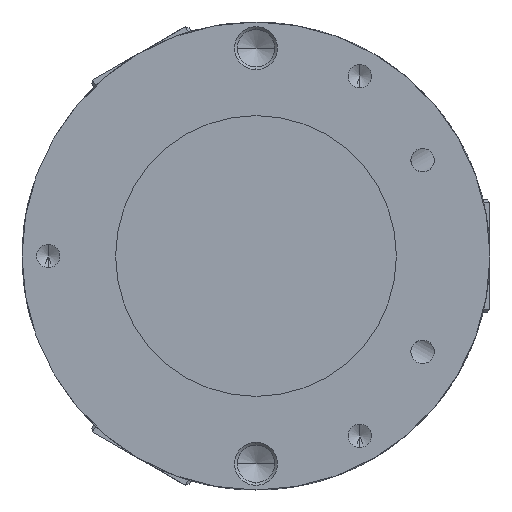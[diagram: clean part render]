
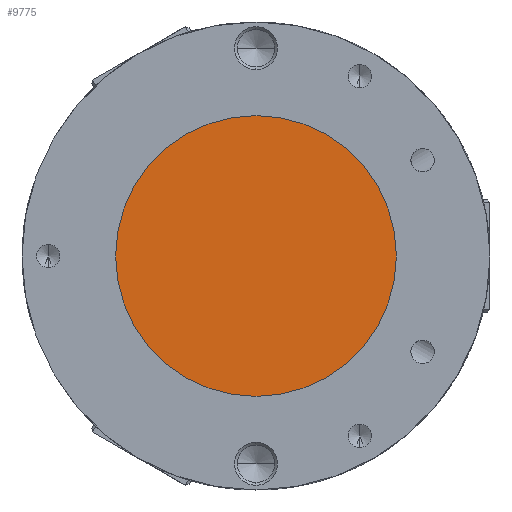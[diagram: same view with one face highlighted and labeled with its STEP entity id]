
A CAD part, front view. The second image highlights one B-rep face of the part: STEP entity #9775.
In plain terms, the highlighted planar face has unit normal (0, -1, 0).
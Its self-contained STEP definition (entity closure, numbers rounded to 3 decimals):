
#1301 = ORIENTED_EDGE ( 'NONE', *, *, #1333, .T. ) ;
#1333 = EDGE_CURVE ( 'NONE', #40136, #53348, #26503, .T. ) ;
#3350 = DIRECTION ( 'NONE',  ( 0., -1., 0. ) ) ;
#6019 = EDGE_CURVE ( 'NONE', #53348, #40136, #22808, .T. ) ;
#8005 = CARTESIAN_POINT ( 'NONE',  ( 0., 0.5, 0. ) ) ;
#9775 = ADVANCED_FACE ( 'NONE', ( #59160 ), #53556, .T. ) ;
#13673 = DIRECTION ( 'NONE',  ( 0., 0., -1. ) ) ;
#22808 = CIRCLE ( 'NONE', #46209, 15. ) ;
#25284 = DIRECTION ( 'NONE',  ( 0., -1., 0. ) ) ;
#26503 = CIRCLE ( 'NONE', #37507, 15. ) ;
#37383 = CARTESIAN_POINT ( 'NONE',  ( 0., 0.5, 0. ) ) ;
#37507 = AXIS2_PLACEMENT_3D ( 'NONE', #8005, #47693, #13673 ) ;
#40136 = VERTEX_POINT ( 'NONE', #62204 ) ;
#43045 = DIRECTION ( 'NONE',  ( 0., 0., -1. ) ) ;
#46209 = AXIS2_PLACEMENT_3D ( 'NONE', #37383, #3350, #43045 ) ;
#47693 = DIRECTION ( 'NONE',  ( 0., -1., 0. ) ) ;
#48811 = EDGE_LOOP ( 'NONE', ( #72108, #1301 ) ) ;
#51978 = AXIS2_PLACEMENT_3D ( 'NONE', #64576, #25284, #65038 ) ;
#53348 = VERTEX_POINT ( 'NONE', #63219 ) ;
#53556 = PLANE ( 'NONE',  #51978 ) ;
#59160 = FACE_OUTER_BOUND ( 'NONE', #48811, .T. ) ;
#62204 = CARTESIAN_POINT ( 'NONE',  ( 0., 0.5, 15. ) ) ;
#63219 = CARTESIAN_POINT ( 'NONE',  ( 0., 0.5, -15. ) ) ;
#64576 = CARTESIAN_POINT ( 'NONE',  ( 0., 0.5, 0. ) ) ;
#65038 = DIRECTION ( 'NONE',  ( 0., 0., -1. ) ) ;
#72108 = ORIENTED_EDGE ( 'NONE', *, *, #6019, .T. ) ;
